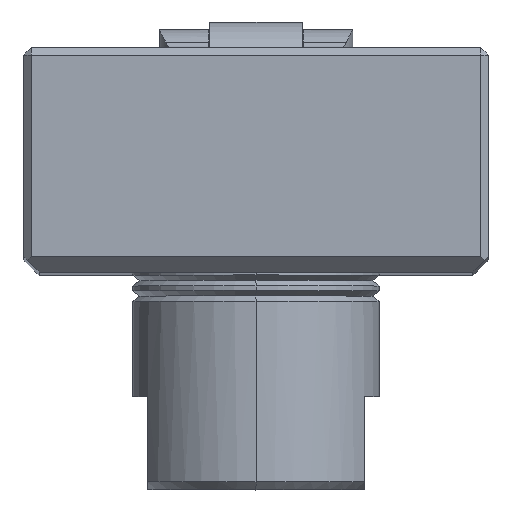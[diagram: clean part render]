
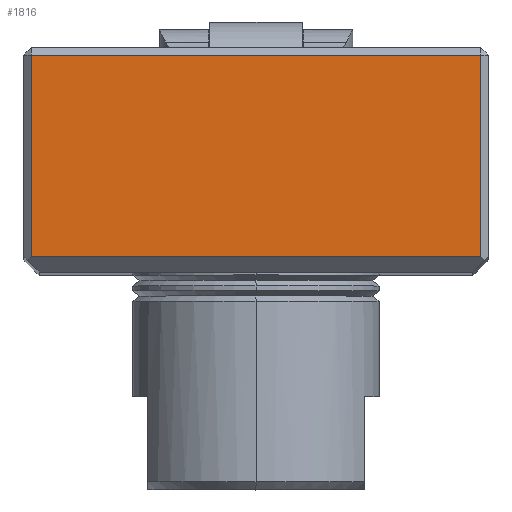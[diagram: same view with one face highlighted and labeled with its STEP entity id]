
A CAD part, top view. The second image highlights one B-rep face of the part: STEP entity #1816.
In plain terms, the highlighted planar face has unit normal (0, 0, 1).
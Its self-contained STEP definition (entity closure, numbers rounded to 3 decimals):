
#1816 = ADVANCED_FACE ( 'NONE', ( #3694 ), #3693, .F. ) ;
#1817 = EDGE_LOOP ( 'NONE', ( #1818, #1994, #1997, #2000 ) ) ;
#1818 = ORIENTED_EDGE ( 'NONE', *, *, #1819, .T. ) ;
#1819 = EDGE_CURVE ( 'NONE', #1820, #1821, #3688, .T. ) ;
#1820 = VERTEX_POINT ( 'NONE', #3684 ) ;
#1821 = VERTEX_POINT ( 'NONE', #3683 ) ;
#1994 = ORIENTED_EDGE ( 'NONE', *, *, #1995, .T. ) ;
#1995 = EDGE_CURVE ( 'NONE', #1821, #1996, #4161, .T. ) ;
#1996 = VERTEX_POINT ( 'NONE', #4157 ) ;
#1997 = ORIENTED_EDGE ( 'NONE', *, *, #1998, .T. ) ;
#1998 = EDGE_CURVE ( 'NONE', #1996, #1999, #4156, .T. ) ;
#1999 = VERTEX_POINT ( 'NONE', #4152 ) ;
#2000 = ORIENTED_EDGE ( 'NONE', *, *, #2001, .T. ) ;
#2001 = EDGE_CURVE ( 'NONE', #1999, #1820, #4151, .T. ) ;
#3683 = CARTESIAN_POINT ( 'NONE',  ( -14.5, 1., 60. ) ) ;
#3684 = CARTESIAN_POINT ( 'NONE',  ( -14.5, 14., 60. ) ) ;
#3685 = DIRECTION ( 'NONE',  ( 0., -1., 0. ) ) ;
#3686 = VECTOR ( 'NONE', #3685, 1000. ) ;
#3687 = CARTESIAN_POINT ( 'NONE',  ( -14.5, 0., 60. ) ) ;
#3688 = LINE ( 'NONE', #3687, #3686 ) ;
#3689 = DIRECTION ( 'NONE',  ( -1., 0., 0. ) ) ;
#3690 = DIRECTION ( 'NONE',  ( 0., 0., -1. ) ) ;
#3691 = CARTESIAN_POINT ( 'NONE',  ( 15., 0., 60. ) ) ;
#3692 = AXIS2_PLACEMENT_3D ( 'NONE', #3691, #3690, #3689 ) ;
#3693 = PLANE ( 'NONE',  #3692 ) ;
#3694 = FACE_OUTER_BOUND ( 'NONE', #1817, .T. ) ;
#4148 = DIRECTION ( 'NONE',  ( -1., 0., 0. ) ) ;
#4149 = VECTOR ( 'NONE', #4148, 1000. ) ;
#4150 = CARTESIAN_POINT ( 'NONE',  ( -15., 14., 60. ) ) ;
#4151 = LINE ( 'NONE', #4150, #4149 ) ;
#4152 = CARTESIAN_POINT ( 'NONE',  ( 14.5, 14., 60. ) ) ;
#4153 = DIRECTION ( 'NONE',  ( 0., 1., 0. ) ) ;
#4154 = VECTOR ( 'NONE', #4153, 1000. ) ;
#4155 = CARTESIAN_POINT ( 'NONE',  ( 14.5, 14.5, 60. ) ) ;
#4156 = LINE ( 'NONE', #4155, #4154 ) ;
#4157 = CARTESIAN_POINT ( 'NONE',  ( 14.5, 1., 60. ) ) ;
#4158 = DIRECTION ( 'NONE',  ( 1., 0., 0. ) ) ;
#4159 = VECTOR ( 'NONE', #4158, 1000. ) ;
#4160 = CARTESIAN_POINT ( 'NONE',  ( 14.5, 1., 60. ) ) ;
#4161 = LINE ( 'NONE', #4160, #4159 ) ;
